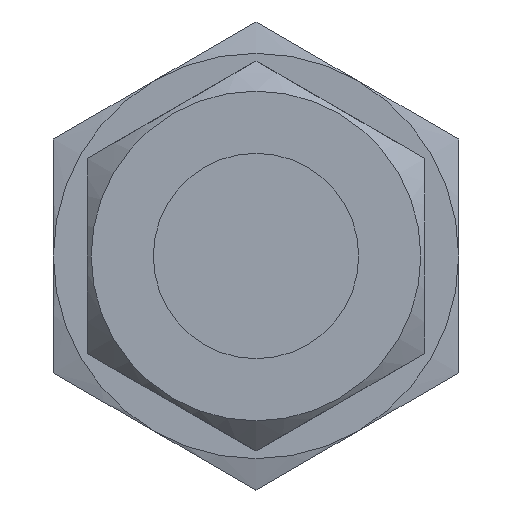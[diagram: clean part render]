
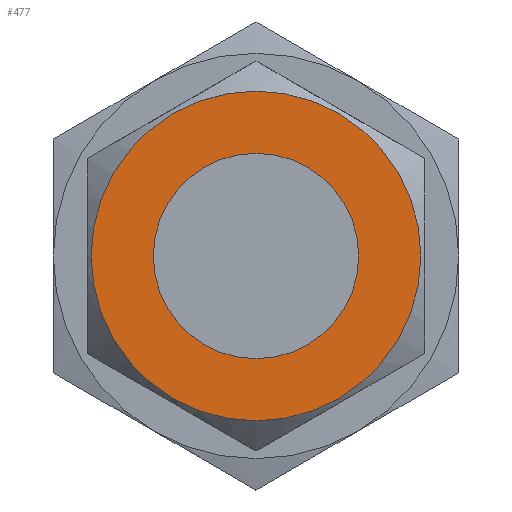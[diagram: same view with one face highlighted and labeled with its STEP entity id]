
A CAD part, left-side view. The second image highlights one B-rep face of the part: STEP entity #477.
In plain terms, the highlighted planar face has unit normal (-1, 0, 0).
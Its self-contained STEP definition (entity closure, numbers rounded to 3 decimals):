
#477 = ADVANCED_FACE( '', ( #1235, #1236 ), #1237, .T. );
#1235 = FACE_BOUND( '', #2285, .T. );
#1236 = FACE_OUTER_BOUND( '', #2286, .T. );
#1237 = PLANE( '', #2287 );
#2285 = EDGE_LOOP( '', ( #3844 ) );
#2286 = EDGE_LOOP( '', ( #3845 ) );
#2287 = AXIS2_PLACEMENT_3D( '', #3846, #3847, #3848 );
#3844 = ORIENTED_EDGE( '', *, *, #6174, .T. );
#3845 = ORIENTED_EDGE( '', *, *, #6175, .F. );
#3846 = CARTESIAN_POINT( '', ( -44.983, 15.68, -15.68 ) );
#3847 = DIRECTION( '', ( -1., 0., 0. ) );
#3848 = DIRECTION( '', ( 0., -1., 0. ) );
#6174 = EDGE_CURVE( '', #7386, #7386, #7387, .F. );
#6175 = EDGE_CURVE( '', #7388, #7388, #7389, .F. );
#7386 = VERTEX_POINT( '', #9377 );
#7387 = CIRCLE( '', #9378, 9.652 );
#7388 = VERTEX_POINT( '', #9379 );
#7389 = CIRCLE( '', #9380, 15.494 );
#9377 = CARTESIAN_POINT( '', ( -44.983, 0., 9.652 ) );
#9378 = AXIS2_PLACEMENT_3D( '', #11308, #11309, #11310 );
#9379 = CARTESIAN_POINT( '', ( -44.983, 0., 15.494 ) );
#9380 = AXIS2_PLACEMENT_3D( '', #11311, #11312, #11313 );
#11308 = CARTESIAN_POINT( '', ( -44.983, 0., 0. ) );
#11309 = DIRECTION( '', ( -1., 0., 0. ) );
#11310 = DIRECTION( '', ( 0., -1., 0. ) );
#11311 = CARTESIAN_POINT( '', ( -44.983, 0., 0. ) );
#11312 = DIRECTION( '', ( -1., 0., 0. ) );
#11313 = DIRECTION( '', ( 0., -1., 0. ) );
